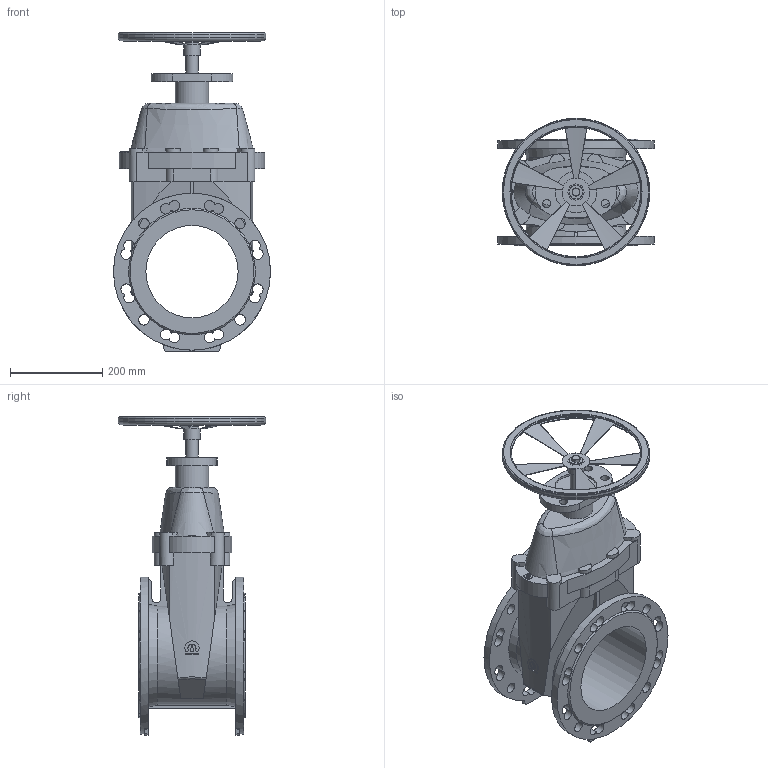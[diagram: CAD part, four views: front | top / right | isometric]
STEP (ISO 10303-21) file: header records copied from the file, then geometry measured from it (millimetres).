
FILE_DESCRIPTION(('STEP AP203'), '1');
FILE_NAME('Çàäâèæêà 47GV.M DN200 ñ ìàõîâèêîì', '', ('UNSPECIFIED'), ('UNSPECIFIED'), 'ASCON STEP Converter 1.6', 'ASCON Math Kernel', '');
FILE_SCHEMA(('CONFIG_CONTROL_DESIGN'));
Length unit declared in the file: millimetre
Bounding box: 340 x 320 x 689 mm (x, y, z)
Volume: 12475185.1 mm3; surface area: 975082.6 mm2
Topology: 1 solids, 1 shells, 298 faces, 876 edges, 566 vertices
Faces by surface type: plane 140, cylinder 122, cone 20, bspline 10, torus 6
Full cylindrical faces by diameter (mm): 18 x4, 23 x8, 26 x1, 30 x1, 35 x1, 72 x1, 90 x1, 200 x1, 283 x1, 317 x1, 320 x1, 340 x2
Entity records: 17726 total; most frequent: CARTESIAN_POINT 7403, ORIENTED_EDGE 1682, DIRECTION 1646, EDGE_CURVE 841, AXIS2_PLACEMENT_3D 664, VERTEX_POINT 566, EDGE_LOOP 387, CIRCLE 375
